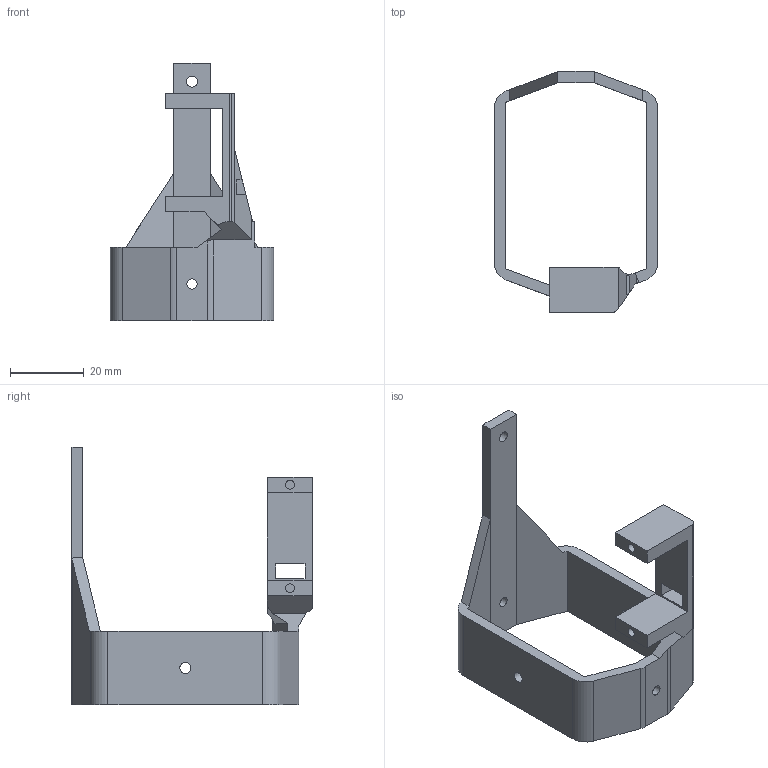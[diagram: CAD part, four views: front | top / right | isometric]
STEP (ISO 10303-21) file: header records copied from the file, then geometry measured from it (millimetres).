
FILE_DESCRIPTION(/* description */ ('STEP AP242 Edition 2','CAx-IF Rec.Pracs.---Representation and Presentation of Product Manufacturing Information (PMI)---4.0---2014-10-13','CAx-IF Rec.Pracs.---3D Tessellated Geometry---0.4---2014-09-14','2;1','CAx-IF Rec.Pracs.---User Defined Attributes---1.5---2016-08-15'),/* implementation_level */ '2;1');
FILE_NAME(/* name */ '695aff05d13f1a02338894d2',/* time_stamp */ '2026-01-05T00:00:06Z',/* author */ (''),/* organization */ (''),/* preprocessor_version */ 'ST-DEVELOPER v20',/* originating_system */ 'ONSHAPE BY PTC INC, 1.208',/* authorisation */ ' ');
FILE_SCHEMA (('AP242_MANAGED_MODEL_BASED_3D_ENGINEERING_MIM_LF { 1 0 10303 442 3 1 4 }'));
Length unit declared in the file: metre
Products named in the file (1): Part 1
Bounding box: 44.4 x 65.45 x 70 mm (x, y, z)
Volume: 16109.9 mm3; surface area: 12761.9 mm2
Topology: 1 solids, 1 shells, 67 faces, 195 edges, 130 vertices
Faces by surface type: plane 50, cylinder 17
Full cylindrical faces by diameter (mm): 2.4 x2, 2.8 x2, 3 x3
Entity records: 2202 total; most frequent: CARTESIAN_POINT 382, ORIENTED_EDGE 372, DIRECTION 358, EDGE_CURVE 186, LINE 150, VECTOR 150, VERTEX_POINT 128, AXIS2_PLACEMENT_3D 104
